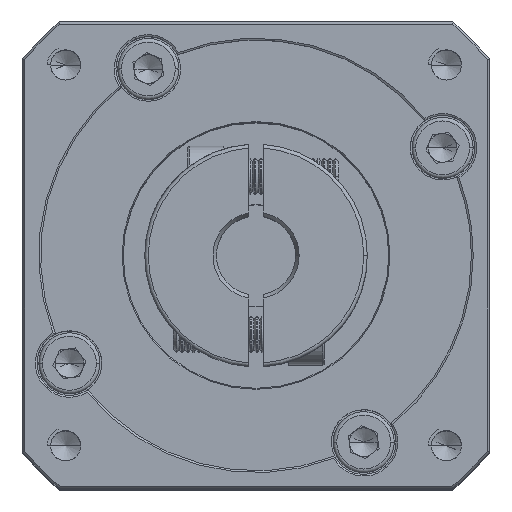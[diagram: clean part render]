
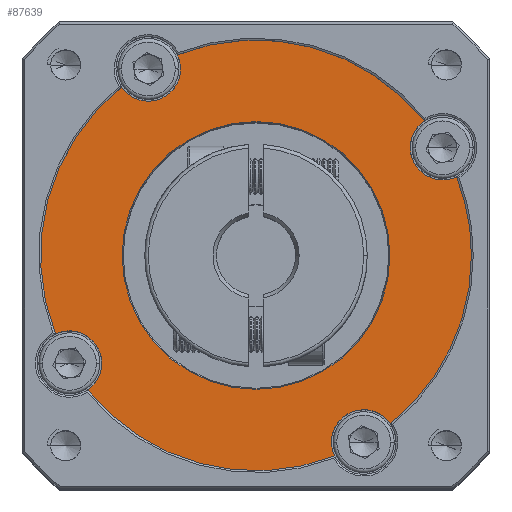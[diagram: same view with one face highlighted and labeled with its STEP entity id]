
A CAD part, top view. The second image highlights one B-rep face of the part: STEP entity #87639.
In plain terms, the highlighted planar face has unit normal (0, 0, 1).
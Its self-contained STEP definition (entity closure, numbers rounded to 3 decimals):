
#629 = EDGE_CURVE ( 'NONE', #36411, #90054, #77060, .T. ) ;
#1247 = EDGE_CURVE ( 'NONE', #70624, #57102, #90974, .T. ) ;
#3292 = ORIENTED_EDGE ( 'NONE', *, *, #99183, .F. ) ;
#3440 = CARTESIAN_POINT ( 'NONE',  ( -69.567, 52.443, 36.65 ) ) ;
#4861 = ORIENTED_EDGE ( 'NONE', *, *, #57459, .F. ) ;
#5085 = CIRCLE ( 'NONE', #54115, 4.5 ) ;
#6057 = DIRECTION ( 'NONE',  ( 1., 0., 0. ) ) ;
#6919 = ORIENTED_EDGE ( 'NONE', *, *, #26599, .F. ) ;
#7991 = CARTESIAN_POINT ( 'NONE',  ( -74.067, 52.443, 36.65 ) ) ;
#8625 = CIRCLE ( 'NONE', #10669, 4.5 ) ;
#9602 = CARTESIAN_POINT ( 'NONE',  ( -87., 15.517, 36.65 ) ) ;
#10669 = AXIS2_PLACEMENT_3D ( 'NONE', #76563, #28707, #84564 ) ;
#11068 = CARTESIAN_POINT ( 'NONE',  ( -74.067, 52.443, 36.65 ) ) ;
#11112 = CARTESIAN_POINT ( 'NONE',  ( -80.548, 11.462, 36.65 ) ) ;
#11537 = CARTESIAN_POINT ( 'NONE',  ( -59.067, 26.462, 36.65 ) ) ;
#11566 = DIRECTION ( 'NONE',  ( 0., 0., 1. ) ) ;
#11873 = CARTESIAN_POINT ( 'NONE',  ( -59.067, 26.462, 36.65 ) ) ;
#11935 = EDGE_CURVE ( 'NONE', #84954, #87991, #97339, .T. ) ;
#12898 = ORIENTED_EDGE ( 'NONE', *, *, #72437, .F. ) ;
#13250 = AXIS2_PLACEMENT_3D ( 'NONE', #11873, #67946, #19959 ) ;
#14193 = AXIS2_PLACEMENT_3D ( 'NONE', #91886, #44072, #99927 ) ;
#16046 = DIRECTION ( 'NONE',  ( 1., 0., 0. ) ) ;
#16318 = AXIS2_PLACEMENT_3D ( 'NONE', #11537, #67598, #19643 ) ;
#16841 = AXIS2_PLACEMENT_3D ( 'NONE', #59587, #11566, #67637 ) ;
#18433 = CARTESIAN_POINT ( 'NONE',  ( -59.067, 26.462, 36.65 ) ) ;
#18968 = CARTESIAN_POINT ( 'NONE',  ( -85.048, 11.462, 36.65 ) ) ;
#19155 = DIRECTION ( 'NONE',  ( 1., 0., 0. ) ) ;
#19643 = DIRECTION ( 'NONE',  ( 1., 0., 0. ) ) ;
#19959 = DIRECTION ( 'NONE',  ( 1., 0., 0. ) ) ;
#20884 = CARTESIAN_POINT ( 'NONE',  ( -85.048, 11.462, 36.65 ) ) ;
#26286 = ORIENTED_EDGE ( 'NONE', *, *, #1247, .T. ) ;
#26431 = CARTESIAN_POINT ( 'NONE',  ( -29.067, 26.462, 36.65 ) ) ;
#26492 = DIRECTION ( 'NONE',  ( 1., 0., 0. ) ) ;
#26599 = EDGE_CURVE ( 'NONE', #31379, #92655, #88843, .T. ) ;
#27027 = DIRECTION ( 'NONE',  ( 1., 0., 0. ) ) ;
#27526 = EDGE_CURVE ( 'NONE', #31379, #71120, #62221, .T. ) ;
#28274 = PLANE ( 'NONE',  #39913 ) ;
#28687 = CARTESIAN_POINT ( 'NONE',  ( -59.067, 26.462, 36.65 ) ) ;
#28707 = DIRECTION ( 'NONE',  ( 0., 0., 1. ) ) ;
#28979 = DIRECTION ( 'NONE',  ( 1., 0., 0. ) ) ;
#29263 = CARTESIAN_POINT ( 'NONE',  ( -33.087, 41.462, 36.65 ) ) ;
#30259 = CARTESIAN_POINT ( 'NONE',  ( -59.067, 26.462, 36.65 ) ) ;
#30264 = DIRECTION ( 'NONE',  ( 0., 0., 1. ) ) ;
#31117 = CIRCLE ( 'NONE', #14193, 4.5 ) ;
#31379 = VERTEX_POINT ( 'NONE', #39294 ) ;
#32500 = ORIENTED_EDGE ( 'NONE', *, *, #64308, .T. ) ;
#32601 = EDGE_CURVE ( 'NONE', #76058, #71120, #8625, .T. ) ;
#34613 = CARTESIAN_POINT ( 'NONE',  ( -77.785, 49.907, 36.65 ) ) ;
#34959 = EDGE_CURVE ( 'NONE', #38648, #77263, #76097, .T. ) ;
#35312 = CIRCLE ( 'NONE', #74579, 18.644 ) ;
#36336 = ORIENTED_EDGE ( 'NONE', *, *, #11935, .T. ) ;
#36411 = VERTEX_POINT ( 'NONE', #83934 ) ;
#36753 = DIRECTION ( 'NONE',  ( 1., 0., 0. ) ) ;
#36940 = CIRCLE ( 'NONE', #52869, 4.5 ) ;
#37330 = DIRECTION ( 'NONE',  ( 1., 0., 0. ) ) ;
#38347 = DIRECTION ( 'NONE',  ( 1., 0., 0. ) ) ;
#38648 = VERTEX_POINT ( 'NONE', #94404 ) ;
#39294 = CARTESIAN_POINT ( 'NONE',  ( -82.512, 7.745, 36.65 ) ) ;
#39913 = AXIS2_PLACEMENT_3D ( 'NONE', #92565, #44717, #100597 ) ;
#40043 = FACE_BOUND ( 'NONE', #51094, .T. ) ;
#40848 = CIRCLE ( 'NONE', #88349, 4.5 ) ;
#43290 = CARTESIAN_POINT ( 'NONE',  ( -70.013, 54.394, 36.65 ) ) ;
#43922 = CARTESIAN_POINT ( 'NONE',  ( -48.122, -1.47, 36.65 ) ) ;
#44072 = DIRECTION ( 'NONE',  ( 0., 0., 1. ) ) ;
#44717 = DIRECTION ( 'NONE',  ( 0., 0., 1. ) ) ;
#46920 = ORIENTED_EDGE ( 'NONE', *, *, #32601, .F. ) ;
#50829 = CIRCLE ( 'NONE', #52802, 30. ) ;
#51094 = EDGE_LOOP ( 'NONE', ( #32500, #97471 ) ) ;
#51284 = EDGE_LOOP ( 'NONE', ( #6919, #86322, #46920, #3292, #26286, #96680, #101343, #12898, #56800, #96933, #4861, #36336, #90985 ) ) ;
#51704 = AXIS2_PLACEMENT_3D ( 'NONE', #18433, #74400, #26492 ) ;
#52802 = AXIS2_PLACEMENT_3D ( 'NONE', #78078, #30264, #86126 ) ;
#52869 = AXIS2_PLACEMENT_3D ( 'NONE', #29263, #85132, #37330 ) ;
#54093 = AXIS2_PLACEMENT_3D ( 'NONE', #101913, #54103, #6057 ) ;
#54103 = DIRECTION ( 'NONE',  ( 0., 0., 1. ) ) ;
#54115 = AXIS2_PLACEMENT_3D ( 'NONE', #7991, #64032, #16046 ) ;
#54138 = AXIS2_PLACEMENT_3D ( 'NONE', #20884, #76799, #28979 ) ;
#55898 = VERTEX_POINT ( 'NONE', #100717 ) ;
#56800 = ORIENTED_EDGE ( 'NONE', *, *, #34959, .T. ) ;
#57102 = VERTEX_POINT ( 'NONE', #26431 ) ;
#57459 = EDGE_CURVE ( 'NONE', #84954, #66273, #5085, .T. ) ;
#59587 = CARTESIAN_POINT ( 'NONE',  ( -59.067, 26.462, 36.65 ) ) ;
#62221 = CIRCLE ( 'NONE', #13250, 30. ) ;
#62348 = AXIS2_PLACEMENT_3D ( 'NONE', #30259, #86122, #38347 ) ;
#64032 = DIRECTION ( 'NONE',  ( 0., 0., 1. ) ) ;
#64149 = CARTESIAN_POINT ( 'NONE',  ( -40.423, 26.462, 36.65 ) ) ;
#64308 = EDGE_CURVE ( 'NONE', #90054, #36411, #35312, .T. ) ;
#65037 = CARTESIAN_POINT ( 'NONE',  ( -31.135, 37.407, 36.65 ) ) ;
#66273 = VERTEX_POINT ( 'NONE', #3440 ) ;
#67139 = DIRECTION ( 'NONE',  ( 0., 0., 1. ) ) ;
#67598 = DIRECTION ( 'NONE',  ( 0., 0., 1. ) ) ;
#67637 = DIRECTION ( 'NONE',  ( 1., 0., 0. ) ) ;
#67946 = DIRECTION ( 'NONE',  ( 0., 0., 1. ) ) ;
#70624 = VERTEX_POINT ( 'NONE', #94609 ) ;
#71120 = VERTEX_POINT ( 'NONE', #43922 ) ;
#72132 = VERTEX_POINT ( 'NONE', #65037 ) ;
#72437 = EDGE_CURVE ( 'NONE', #38648, #55898, #88423, .T. ) ;
#73339 = EDGE_CURVE ( 'NONE', #55898, #72132, #36940, .T. ) ;
#74400 = DIRECTION ( 'NONE',  ( 0., 0., -1. ) ) ;
#74579 = AXIS2_PLACEMENT_3D ( 'NONE', #28687, #84545, #36753 ) ;
#74897 = DIRECTION ( 'NONE',  ( 0., 0., 1. ) ) ;
#76058 = VERTEX_POINT ( 'NONE', #97298 ) ;
#76097 = CIRCLE ( 'NONE', #16318, 30. ) ;
#76563 = CARTESIAN_POINT ( 'NONE',  ( -44.067, 0.481, 36.65 ) ) ;
#76799 = DIRECTION ( 'NONE',  ( 0., 0., 1. ) ) ;
#77060 = CIRCLE ( 'NONE', #51704, 18.644 ) ;
#77263 = VERTEX_POINT ( 'NONE', #43290 ) ;
#78078 = CARTESIAN_POINT ( 'NONE',  ( -59.067, 26.462, 36.65 ) ) ;
#82622 = EDGE_CURVE ( 'NONE', #57102, #72132, #50829, .T. ) ;
#83438 = AXIS2_PLACEMENT_3D ( 'NONE', #11068, #67139, #19155 ) ;
#83934 = CARTESIAN_POINT ( 'NONE',  ( -77.712, 26.462, 36.65 ) ) ;
#84545 = DIRECTION ( 'NONE',  ( 0., 0., -1. ) ) ;
#84564 = DIRECTION ( 'NONE',  ( 1., 0., 0. ) ) ;
#84954 = VERTEX_POINT ( 'NONE', #34613 ) ;
#85132 = DIRECTION ( 'NONE',  ( 0., 0., 1. ) ) ;
#86122 = DIRECTION ( 'NONE',  ( 0., 0., 1. ) ) ;
#86126 = DIRECTION ( 'NONE',  ( 1., 0., 0. ) ) ;
#86322 = ORIENTED_EDGE ( 'NONE', *, *, #27526, .T. ) ;
#87639 = ADVANCED_FACE ( 'NONE', ( #40043, #101254 ), #28274, .T. ) ;
#87991 = VERTEX_POINT ( 'NONE', #9602 ) ;
#88349 = AXIS2_PLACEMENT_3D ( 'NONE', #18968, #74897, #27027 ) ;
#88423 = CIRCLE ( 'NONE', #54093, 4.5 ) ;
#88843 = CIRCLE ( 'NONE', #54138, 4.5 ) ;
#90054 = VERTEX_POINT ( 'NONE', #64149 ) ;
#90470 = EDGE_CURVE ( 'NONE', #92655, #87991, #40848, .T. ) ;
#90974 = CIRCLE ( 'NONE', #16841, 30. ) ;
#90985 = ORIENTED_EDGE ( 'NONE', *, *, #90470, .F. ) ;
#91886 = CARTESIAN_POINT ( 'NONE',  ( -44.067, 0.481, 36.65 ) ) ;
#92565 = CARTESIAN_POINT ( 'NONE',  ( -59.067, 26.462, 36.65 ) ) ;
#92655 = VERTEX_POINT ( 'NONE', #11112 ) ;
#94404 = CARTESIAN_POINT ( 'NONE',  ( -35.623, 45.179, 36.65 ) ) ;
#94609 = CARTESIAN_POINT ( 'NONE',  ( -40.35, 3.017, 36.65 ) ) ;
#96680 = ORIENTED_EDGE ( 'NONE', *, *, #82622, .T. ) ;
#96933 = ORIENTED_EDGE ( 'NONE', *, *, #101143, .F. ) ;
#97298 = CARTESIAN_POINT ( 'NONE',  ( -48.567, 0.481, 36.65 ) ) ;
#97339 = CIRCLE ( 'NONE', #62348, 30. ) ;
#97471 = ORIENTED_EDGE ( 'NONE', *, *, #629, .T. ) ;
#99183 = EDGE_CURVE ( 'NONE', #70624, #76058, #31117, .T. ) ;
#99523 = CIRCLE ( 'NONE', #83438, 4.5 ) ;
#99927 = DIRECTION ( 'NONE',  ( 1., 0., 0. ) ) ;
#100597 = DIRECTION ( 'NONE',  ( 1., 0., 0. ) ) ;
#100717 = CARTESIAN_POINT ( 'NONE',  ( -37.587, 41.462, 36.65 ) ) ;
#101143 = EDGE_CURVE ( 'NONE', #66273, #77263, #99523, .T. ) ;
#101254 = FACE_OUTER_BOUND ( 'NONE', #51284, .T. ) ;
#101343 = ORIENTED_EDGE ( 'NONE', *, *, #73339, .F. ) ;
#101913 = CARTESIAN_POINT ( 'NONE',  ( -33.087, 41.462, 36.65 ) ) ;
